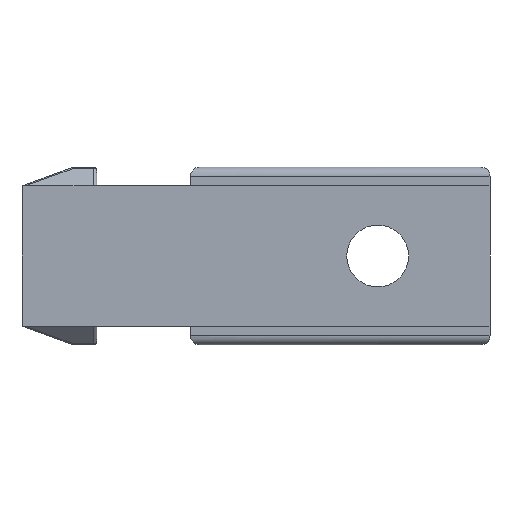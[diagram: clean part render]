
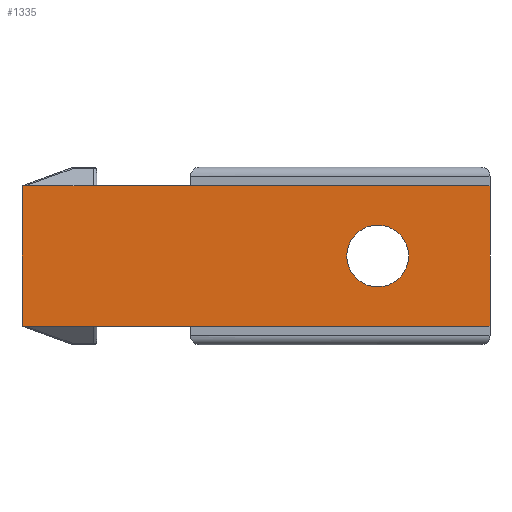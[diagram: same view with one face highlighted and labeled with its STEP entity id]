
A CAD part, front view. The second image highlights one B-rep face of the part: STEP entity #1335.
In plain terms, the highlighted planar face has unit normal (0, -1, 0).
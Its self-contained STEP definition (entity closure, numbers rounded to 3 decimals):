
#61 = DIRECTION ( 'NONE',  ( 0., 1., 0. ) ) ;
#180 = VERTEX_POINT ( 'NONE', #1795 ) ;
#198 = DIRECTION ( 'NONE',  ( 1., 0., 0. ) ) ;
#199 = ORIENTED_EDGE ( 'NONE', *, *, #909, .T. ) ;
#234 = VECTOR ( 'NONE', #1477, 1000. ) ;
#269 = VECTOR ( 'NONE', #917, 1000. ) ;
#289 = VERTEX_POINT ( 'NONE', #1290 ) ;
#313 = FACE_OUTER_BOUND ( 'NONE', #699, .T. ) ;
#362 = PLANE ( 'NONE',  #1357 ) ;
#388 = DIRECTION ( 'NONE',  ( 0., 1., 0. ) ) ;
#400 = FACE_BOUND ( 'NONE', #1816, .T. ) ;
#447 = CARTESIAN_POINT ( 'NONE',  ( 0., 0., -3.75 ) ) ;
#467 = ORIENTED_EDGE ( 'NONE', *, *, #1069, .F. ) ;
#487 = VECTOR ( 'NONE', #595, 1000. ) ;
#508 = CARTESIAN_POINT ( 'NONE',  ( 0., 0., 3.75 ) ) ;
#539 = LINE ( 'NONE', #1574, #905 ) ;
#585 = ORIENTED_EDGE ( 'NONE', *, *, #1695, .T. ) ;
#589 = LINE ( 'NONE', #1766, #269 ) ;
#595 = DIRECTION ( 'NONE',  ( 1., 0., 0. ) ) ;
#699 = EDGE_LOOP ( 'NONE', ( #585, #1166, #467, #199 ) ) ;
#821 = AXIS2_PLACEMENT_3D ( 'NONE', #1216, #388, #1362 ) ;
#896 = CARTESIAN_POINT ( 'NONE',  ( 19., 0., 0. ) ) ;
#905 = VECTOR ( 'NONE', #198, 1000. ) ;
#906 = EDGE_CURVE ( 'NONE', #1799, #1718, #589, .T. ) ;
#909 = EDGE_CURVE ( 'NONE', #289, #1735, #1278, .T. ) ;
#917 = DIRECTION ( 'NONE',  ( 0., 0., -1. ) ) ;
#1009 = CARTESIAN_POINT ( 'NONE',  ( 25., 0., -3.75 ) ) ;
#1032 = DIRECTION ( 'NONE',  ( 0., 0., 1. ) ) ;
#1051 = CARTESIAN_POINT ( 'NONE',  ( 0., 0., 3.75 ) ) ;
#1069 = EDGE_CURVE ( 'NONE', #289, #1799, #1488, .T. ) ;
#1073 = CIRCLE ( 'NONE', #821, 1.65 ) ;
#1111 = EDGE_CURVE ( 'NONE', #180, #1322, #1073, .T. ) ;
#1115 = AXIS2_PLACEMENT_3D ( 'NONE', #896, #61, #1032 ) ;
#1166 = ORIENTED_EDGE ( 'NONE', *, *, #906, .F. ) ;
#1216 = CARTESIAN_POINT ( 'NONE',  ( 19., 0., 0. ) ) ;
#1252 = ORIENTED_EDGE ( 'NONE', *, *, #1111, .T. ) ;
#1276 = CARTESIAN_POINT ( 'NONE',  ( 25., 0., 3.75 ) ) ;
#1278 = LINE ( 'NONE', #508, #234 ) ;
#1286 = CARTESIAN_POINT ( 'NONE',  ( 0., 0., 3.75 ) ) ;
#1290 = CARTESIAN_POINT ( 'NONE',  ( 0., 0., 3.75 ) ) ;
#1322 = VERTEX_POINT ( 'NONE', #1612 ) ;
#1332 = DIRECTION ( 'NONE',  ( 0., 0., 1. ) ) ;
#1335 = ADVANCED_FACE ( 'NONE', ( #400, #313 ), #362, .F. ) ;
#1357 = AXIS2_PLACEMENT_3D ( 'NONE', #1051, #1762, #1332 ) ;
#1362 = DIRECTION ( 'NONE',  ( 0., 0., 1. ) ) ;
#1436 = ORIENTED_EDGE ( 'NONE', *, *, #1534, .T. ) ;
#1477 = DIRECTION ( 'NONE',  ( 0., 0., -1. ) ) ;
#1488 = LINE ( 'NONE', #1286, #487 ) ;
#1534 = EDGE_CURVE ( 'NONE', #1322, #180, #1783, .T. ) ;
#1574 = CARTESIAN_POINT ( 'NONE',  ( 0., 0., -3.75 ) ) ;
#1612 = CARTESIAN_POINT ( 'NONE',  ( 19., 0., -1.65 ) ) ;
#1695 = EDGE_CURVE ( 'NONE', #1735, #1718, #539, .T. ) ;
#1718 = VERTEX_POINT ( 'NONE', #1009 ) ;
#1735 = VERTEX_POINT ( 'NONE', #447 ) ;
#1762 = DIRECTION ( 'NONE',  ( 0., 1., 0. ) ) ;
#1766 = CARTESIAN_POINT ( 'NONE',  ( 25., 0., 3.75 ) ) ;
#1783 = CIRCLE ( 'NONE', #1115, 1.65 ) ;
#1795 = CARTESIAN_POINT ( 'NONE',  ( 19., 0., 1.65 ) ) ;
#1799 = VERTEX_POINT ( 'NONE', #1276 ) ;
#1816 = EDGE_LOOP ( 'NONE', ( #1252, #1436 ) ) ;
